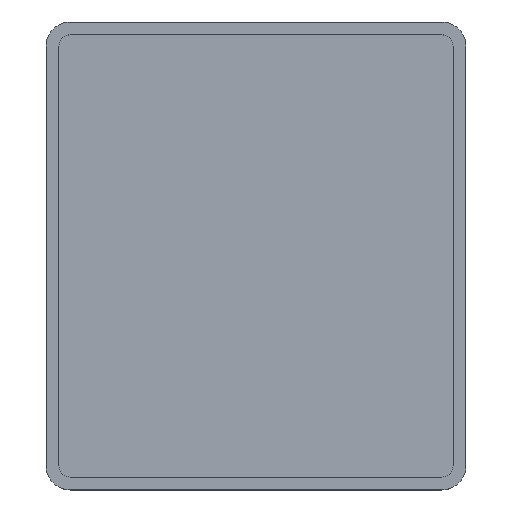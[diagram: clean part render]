
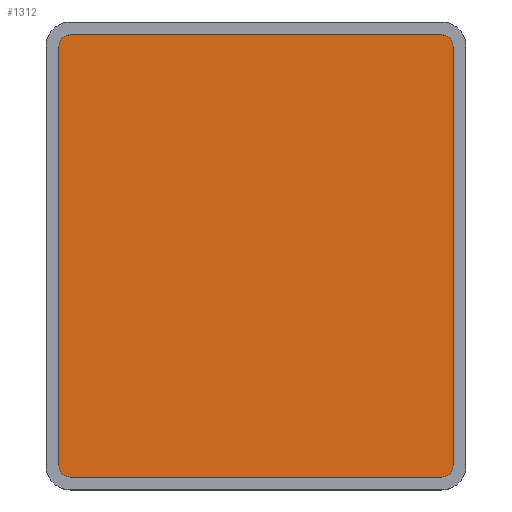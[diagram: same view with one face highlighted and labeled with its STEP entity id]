
A CAD part, top view. The second image highlights one B-rep face of the part: STEP entity #1312.
In plain terms, the highlighted planar face has unit normal (0, 0, 1).
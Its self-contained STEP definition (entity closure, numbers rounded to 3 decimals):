
#359 = CYLINDRICAL_SURFACE('',#360,0.7);
#360 = AXIS2_PLACEMENT_3D('',#361,#362,#363);
#361 = CARTESIAN_POINT('',(1.5,1.5,1.));
#362 = DIRECTION('',(0.,0.,1.));
#363 = DIRECTION('',(-1.,-0.,0.));
#386 = PLANE('',#387);
#387 = AXIS2_PLACEMENT_3D('',#388,#389,#390);
#388 = CARTESIAN_POINT('',(0.8,0.8,1.));
#389 = DIRECTION('',(1.,0.,0.));
#390 = DIRECTION('',(0.,0.,1.));
#414 = CYLINDRICAL_SURFACE('',#415,0.7);
#415 = AXIS2_PLACEMENT_3D('',#416,#417,#418);
#416 = CARTESIAN_POINT('',(1.5,27.7,1.));
#417 = DIRECTION('',(0.,0.,1.));
#418 = DIRECTION('',(-1.,-0.,0.));
#441 = PLANE('',#442);
#442 = AXIS2_PLACEMENT_3D('',#443,#444,#445);
#443 = CARTESIAN_POINT('',(0.8,28.4,1.));
#444 = DIRECTION('',(0.,1.,0.));
#445 = DIRECTION('',(0.,0.,1.));
#469 = CYLINDRICAL_SURFACE('',#470,0.7);
#470 = AXIS2_PLACEMENT_3D('',#471,#472,#473);
#471 = CARTESIAN_POINT('',(24.7,27.7,1.));
#472 = DIRECTION('',(0.,0.,1.));
#473 = DIRECTION('',(1.,0.,-0.));
#496 = PLANE('',#497);
#497 = AXIS2_PLACEMENT_3D('',#498,#499,#500);
#498 = CARTESIAN_POINT('',(25.4,0.8,1.));
#499 = DIRECTION('',(1.,0.,0.));
#500 = DIRECTION('',(0.,0.,1.));
#524 = CYLINDRICAL_SURFACE('',#525,0.7);
#525 = AXIS2_PLACEMENT_3D('',#526,#527,#528);
#526 = CARTESIAN_POINT('',(24.7,1.5,1.));
#527 = DIRECTION('',(0.,0.,1.));
#528 = DIRECTION('',(1.,0.,-0.));
#549 = PLANE('',#550);
#550 = AXIS2_PLACEMENT_3D('',#551,#552,#553);
#551 = CARTESIAN_POINT('',(0.8,0.8,1.));
#552 = DIRECTION('',(0.,1.,0.));
#553 = DIRECTION('',(0.,0.,1.));
#908 = VERTEX_POINT('',#909);
#909 = CARTESIAN_POINT('',(0.8,1.5,1.));
#930 = EDGE_CURVE('',#908,#931,#933,.T.);
#931 = VERTEX_POINT('',#932);
#932 = CARTESIAN_POINT('',(1.5,0.8,1.));
#933 = SURFACE_CURVE('',#934,(#939,#946),.PCURVE_S1.);
#934 = CIRCLE('',#935,0.7);
#935 = AXIS2_PLACEMENT_3D('',#936,#937,#938);
#936 = CARTESIAN_POINT('',(1.5,1.5,1.));
#937 = DIRECTION('',(0.,0.,1.));
#938 = DIRECTION('',(0.,-1.,0.));
#939 = PCURVE('',#359,#940);
#940 = DEFINITIONAL_REPRESENTATION('',(#941),#945);
#941 = LINE('',#942,#943);
#942 = CARTESIAN_POINT('',(-4.712,0.));
#943 = VECTOR('',#944,1.);
#944 = DIRECTION('',(1.,0.));
#945 = ( GEOMETRIC_REPRESENTATION_CONTEXT(2) 
PARAMETRIC_REPRESENTATION_CONTEXT() REPRESENTATION_CONTEXT('2D SPACE',''
  ) );
#946 = PCURVE('',#947,#952);
#947 = PLANE('',#948);
#948 = AXIS2_PLACEMENT_3D('',#949,#950,#951);
#949 = CARTESIAN_POINT('',(0.8,0.8,1.));
#950 = DIRECTION('',(0.,0.,1.));
#951 = DIRECTION('',(1.,0.,0.));
#952 = DEFINITIONAL_REPRESENTATION('',(#953),#957);
#953 = CIRCLE('',#954,0.7);
#954 = AXIS2_PLACEMENT_2D('',#955,#956);
#955 = CARTESIAN_POINT('',(0.7,0.7));
#956 = DIRECTION('',(0.,-1.));
#957 = ( GEOMETRIC_REPRESENTATION_CONTEXT(2) 
PARAMETRIC_REPRESENTATION_CONTEXT() REPRESENTATION_CONTEXT('2D SPACE',''
  ) );
#984 = EDGE_CURVE('',#931,#985,#987,.T.);
#985 = VERTEX_POINT('',#986);
#986 = CARTESIAN_POINT('',(24.7,0.8,1.));
#987 = SURFACE_CURVE('',#988,(#992,#999),.PCURVE_S1.);
#988 = LINE('',#989,#990);
#989 = CARTESIAN_POINT('',(0.8,0.8,1.));
#990 = VECTOR('',#991,1.);
#991 = DIRECTION('',(1.,0.,0.));
#992 = PCURVE('',#549,#993);
#993 = DEFINITIONAL_REPRESENTATION('',(#994),#998);
#994 = LINE('',#995,#996);
#995 = CARTESIAN_POINT('',(0.,0.));
#996 = VECTOR('',#997,1.);
#997 = DIRECTION('',(0.,1.));
#998 = ( GEOMETRIC_REPRESENTATION_CONTEXT(2) 
PARAMETRIC_REPRESENTATION_CONTEXT() REPRESENTATION_CONTEXT('2D SPACE',''
  ) );
#999 = PCURVE('',#947,#1000);
#1000 = DEFINITIONAL_REPRESENTATION('',(#1001),#1005);
#1001 = LINE('',#1002,#1003);
#1002 = CARTESIAN_POINT('',(0.,0.));
#1003 = VECTOR('',#1004,1.);
#1004 = DIRECTION('',(1.,0.));
#1005 = ( GEOMETRIC_REPRESENTATION_CONTEXT(2) 
PARAMETRIC_REPRESENTATION_CONTEXT() REPRESENTATION_CONTEXT('2D SPACE',''
  ) );
#1034 = VERTEX_POINT('',#1035);
#1035 = CARTESIAN_POINT('',(25.4,1.5,1.));
#1056 = EDGE_CURVE('',#1034,#985,#1057,.T.);
#1057 = SURFACE_CURVE('',#1058,(#1063,#1070),.PCURVE_S1.);
#1058 = CIRCLE('',#1059,0.7);
#1059 = AXIS2_PLACEMENT_3D('',#1060,#1061,#1062);
#1060 = CARTESIAN_POINT('',(24.7,1.5,1.));
#1061 = DIRECTION('',(-0.,-0.,-1.));
#1062 = DIRECTION('',(0.,-1.,0.));
#1063 = PCURVE('',#524,#1064);
#1064 = DEFINITIONAL_REPRESENTATION('',(#1065),#1069);
#1065 = LINE('',#1066,#1067);
#1066 = CARTESIAN_POINT('',(4.712,-0.));
#1067 = VECTOR('',#1068,1.);
#1068 = DIRECTION('',(-1.,0.));
#1069 = ( GEOMETRIC_REPRESENTATION_CONTEXT(2) 
PARAMETRIC_REPRESENTATION_CONTEXT() REPRESENTATION_CONTEXT('2D SPACE',''
  ) );
#1070 = PCURVE('',#947,#1071);
#1071 = DEFINITIONAL_REPRESENTATION('',(#1072),#1080);
#1072 = ( BOUNDED_CURVE() B_SPLINE_CURVE(2,(#1073,#1074,#1075,#1076,
#1077,#1078,#1079),.UNSPECIFIED.,.T.,.F.) B_SPLINE_CURVE_WITH_KNOTS((1,2
    ,2,2,2,1),(-2.094,0.,2.094,4.189,
6.283,8.378),.UNSPECIFIED.) CURVE() 
GEOMETRIC_REPRESENTATION_ITEM() RATIONAL_B_SPLINE_CURVE((1.,0.5,1.,0.5,
1.,0.5,1.)) REPRESENTATION_ITEM('') );
#1073 = CARTESIAN_POINT('',(23.9,0.));
#1074 = CARTESIAN_POINT('',(22.688,0.));
#1075 = CARTESIAN_POINT('',(23.294,1.05));
#1076 = CARTESIAN_POINT('',(23.9,2.1));
#1077 = CARTESIAN_POINT('',(24.506,1.05));
#1078 = CARTESIAN_POINT('',(25.112,0.));
#1079 = CARTESIAN_POINT('',(23.9,0.));
#1080 = ( GEOMETRIC_REPRESENTATION_CONTEXT(2) 
PARAMETRIC_REPRESENTATION_CONTEXT() REPRESENTATION_CONTEXT('2D SPACE',''
  ) );
#1089 = EDGE_CURVE('',#1034,#1090,#1092,.T.);
#1090 = VERTEX_POINT('',#1091);
#1091 = CARTESIAN_POINT('',(25.4,27.7,1.));
#1092 = SURFACE_CURVE('',#1093,(#1097,#1104),.PCURVE_S1.);
#1093 = LINE('',#1094,#1095);
#1094 = CARTESIAN_POINT('',(25.4,0.8,1.));
#1095 = VECTOR('',#1096,1.);
#1096 = DIRECTION('',(0.,1.,0.));
#1097 = PCURVE('',#496,#1098);
#1098 = DEFINITIONAL_REPRESENTATION('',(#1099),#1103);
#1099 = LINE('',#1100,#1101);
#1100 = CARTESIAN_POINT('',(0.,0.));
#1101 = VECTOR('',#1102,1.);
#1102 = DIRECTION('',(0.,-1.));
#1103 = ( GEOMETRIC_REPRESENTATION_CONTEXT(2) 
PARAMETRIC_REPRESENTATION_CONTEXT() REPRESENTATION_CONTEXT('2D SPACE',''
  ) );
#1104 = PCURVE('',#947,#1105);
#1105 = DEFINITIONAL_REPRESENTATION('',(#1106),#1110);
#1106 = LINE('',#1107,#1108);
#1107 = CARTESIAN_POINT('',(24.6,0.));
#1108 = VECTOR('',#1109,1.);
#1109 = DIRECTION('',(0.,1.));
#1110 = ( GEOMETRIC_REPRESENTATION_CONTEXT(2) 
PARAMETRIC_REPRESENTATION_CONTEXT() REPRESENTATION_CONTEXT('2D SPACE',''
  ) );
#1137 = EDGE_CURVE('',#1090,#1138,#1140,.T.);
#1138 = VERTEX_POINT('',#1139);
#1139 = CARTESIAN_POINT('',(24.7,28.4,1.));
#1140 = SURFACE_CURVE('',#1141,(#1146,#1153),.PCURVE_S1.);
#1141 = CIRCLE('',#1142,0.7);
#1142 = AXIS2_PLACEMENT_3D('',#1143,#1144,#1145);
#1143 = CARTESIAN_POINT('',(24.7,27.7,1.));
#1144 = DIRECTION('',(0.,0.,1.));
#1145 = DIRECTION('',(0.,-1.,0.));
#1146 = PCURVE('',#469,#1147);
#1147 = DEFINITIONAL_REPRESENTATION('',(#1148),#1152);
#1148 = LINE('',#1149,#1150);
#1149 = CARTESIAN_POINT('',(-1.571,0.));
#1150 = VECTOR('',#1151,1.);
#1151 = DIRECTION('',(1.,0.));
#1152 = ( GEOMETRIC_REPRESENTATION_CONTEXT(2) 
PARAMETRIC_REPRESENTATION_CONTEXT() REPRESENTATION_CONTEXT('2D SPACE',''
  ) );
#1153 = PCURVE('',#947,#1154);
#1154 = DEFINITIONAL_REPRESENTATION('',(#1155),#1159);
#1155 = CIRCLE('',#1156,0.7);
#1156 = AXIS2_PLACEMENT_2D('',#1157,#1158);
#1157 = CARTESIAN_POINT('',(23.9,26.9));
#1158 = DIRECTION('',(0.,-1.));
#1159 = ( GEOMETRIC_REPRESENTATION_CONTEXT(2) 
PARAMETRIC_REPRESENTATION_CONTEXT() REPRESENTATION_CONTEXT('2D SPACE',''
  ) );
#1186 = EDGE_CURVE('',#1187,#1138,#1189,.T.);
#1187 = VERTEX_POINT('',#1188);
#1188 = CARTESIAN_POINT('',(1.5,28.4,1.));
#1189 = SURFACE_CURVE('',#1190,(#1194,#1201),.PCURVE_S1.);
#1190 = LINE('',#1191,#1192);
#1191 = CARTESIAN_POINT('',(0.8,28.4,1.));
#1192 = VECTOR('',#1193,1.);
#1193 = DIRECTION('',(1.,0.,0.));
#1194 = PCURVE('',#441,#1195);
#1195 = DEFINITIONAL_REPRESENTATION('',(#1196),#1200);
#1196 = LINE('',#1197,#1198);
#1197 = CARTESIAN_POINT('',(0.,0.));
#1198 = VECTOR('',#1199,1.);
#1199 = DIRECTION('',(0.,1.));
#1200 = ( GEOMETRIC_REPRESENTATION_CONTEXT(2) 
PARAMETRIC_REPRESENTATION_CONTEXT() REPRESENTATION_CONTEXT('2D SPACE',''
  ) );
#1201 = PCURVE('',#947,#1202);
#1202 = DEFINITIONAL_REPRESENTATION('',(#1203),#1207);
#1203 = LINE('',#1204,#1205);
#1204 = CARTESIAN_POINT('',(0.,27.6));
#1205 = VECTOR('',#1206,1.);
#1206 = DIRECTION('',(1.,0.));
#1207 = ( GEOMETRIC_REPRESENTATION_CONTEXT(2) 
PARAMETRIC_REPRESENTATION_CONTEXT() REPRESENTATION_CONTEXT('2D SPACE',''
  ) );
#1236 = VERTEX_POINT('',#1237);
#1237 = CARTESIAN_POINT('',(0.8,27.7,1.));
#1258 = EDGE_CURVE('',#1236,#1187,#1259,.T.);
#1259 = SURFACE_CURVE('',#1260,(#1265,#1272),.PCURVE_S1.);
#1260 = CIRCLE('',#1261,0.7);
#1261 = AXIS2_PLACEMENT_3D('',#1262,#1263,#1264);
#1262 = CARTESIAN_POINT('',(1.5,27.7,1.));
#1263 = DIRECTION('',(-0.,-0.,-1.));
#1264 = DIRECTION('',(0.,-1.,0.));
#1265 = PCURVE('',#414,#1266);
#1266 = DEFINITIONAL_REPRESENTATION('',(#1267),#1271);
#1267 = LINE('',#1268,#1269);
#1268 = CARTESIAN_POINT('',(1.571,-0.));
#1269 = VECTOR('',#1270,1.);
#1270 = DIRECTION('',(-1.,0.));
#1271 = ( GEOMETRIC_REPRESENTATION_CONTEXT(2) 
PARAMETRIC_REPRESENTATION_CONTEXT() REPRESENTATION_CONTEXT('2D SPACE',''
  ) );
#1272 = PCURVE('',#947,#1273);
#1273 = DEFINITIONAL_REPRESENTATION('',(#1274),#1282);
#1274 = ( BOUNDED_CURVE() B_SPLINE_CURVE(2,(#1275,#1276,#1277,#1278,
#1279,#1280,#1281),.UNSPECIFIED.,.T.,.F.) B_SPLINE_CURVE_WITH_KNOTS((1,2
    ,2,2,2,1),(-2.094,0.,2.094,4.189,
6.283,8.378),.UNSPECIFIED.) CURVE() 
GEOMETRIC_REPRESENTATION_ITEM() RATIONAL_B_SPLINE_CURVE((1.,0.5,1.,0.5,
1.,0.5,1.)) REPRESENTATION_ITEM('') );
#1275 = CARTESIAN_POINT('',(0.7,26.2));
#1276 = CARTESIAN_POINT('',(-0.512,26.2));
#1277 = CARTESIAN_POINT('',(0.094,27.25));
#1278 = CARTESIAN_POINT('',(0.7,28.3));
#1279 = CARTESIAN_POINT('',(1.306,27.25));
#1280 = CARTESIAN_POINT('',(1.912,26.2));
#1281 = CARTESIAN_POINT('',(0.7,26.2));
#1282 = ( GEOMETRIC_REPRESENTATION_CONTEXT(2) 
PARAMETRIC_REPRESENTATION_CONTEXT() REPRESENTATION_CONTEXT('2D SPACE',''
  ) );
#1291 = EDGE_CURVE('',#908,#1236,#1292,.T.);
#1292 = SURFACE_CURVE('',#1293,(#1297,#1304),.PCURVE_S1.);
#1293 = LINE('',#1294,#1295);
#1294 = CARTESIAN_POINT('',(0.8,0.8,1.));
#1295 = VECTOR('',#1296,1.);
#1296 = DIRECTION('',(0.,1.,0.));
#1297 = PCURVE('',#386,#1298);
#1298 = DEFINITIONAL_REPRESENTATION('',(#1299),#1303);
#1299 = LINE('',#1300,#1301);
#1300 = CARTESIAN_POINT('',(0.,0.));
#1301 = VECTOR('',#1302,1.);
#1302 = DIRECTION('',(0.,-1.));
#1303 = ( GEOMETRIC_REPRESENTATION_CONTEXT(2) 
PARAMETRIC_REPRESENTATION_CONTEXT() REPRESENTATION_CONTEXT('2D SPACE',''
  ) );
#1304 = PCURVE('',#947,#1305);
#1305 = DEFINITIONAL_REPRESENTATION('',(#1306),#1310);
#1306 = LINE('',#1307,#1308);
#1307 = CARTESIAN_POINT('',(0.,0.));
#1308 = VECTOR('',#1309,1.);
#1309 = DIRECTION('',(0.,1.));
#1310 = ( GEOMETRIC_REPRESENTATION_CONTEXT(2) 
PARAMETRIC_REPRESENTATION_CONTEXT() REPRESENTATION_CONTEXT('2D SPACE',''
  ) );
#1312 = ADVANCED_FACE('',(#1313),#947,.T.);
#1313 = FACE_BOUND('',#1314,.T.);
#1314 = EDGE_LOOP('',(#1315,#1316,#1317,#1318,#1319,#1320,#1321,#1322));
#1315 = ORIENTED_EDGE('',*,*,#1291,.F.);
#1316 = ORIENTED_EDGE('',*,*,#930,.T.);
#1317 = ORIENTED_EDGE('',*,*,#984,.T.);
#1318 = ORIENTED_EDGE('',*,*,#1056,.F.);
#1319 = ORIENTED_EDGE('',*,*,#1089,.T.);
#1320 = ORIENTED_EDGE('',*,*,#1137,.T.);
#1321 = ORIENTED_EDGE('',*,*,#1186,.F.);
#1322 = ORIENTED_EDGE('',*,*,#1258,.F.);
